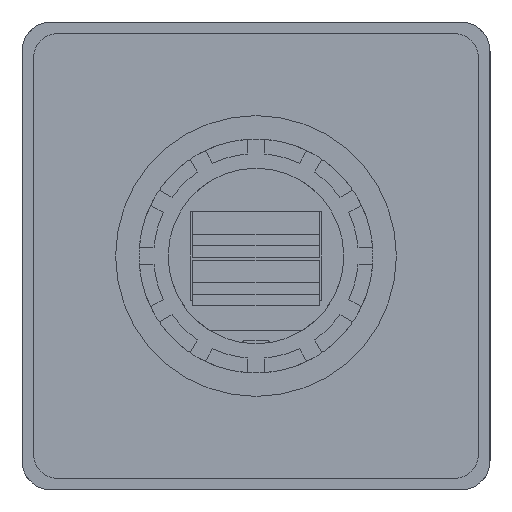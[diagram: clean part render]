
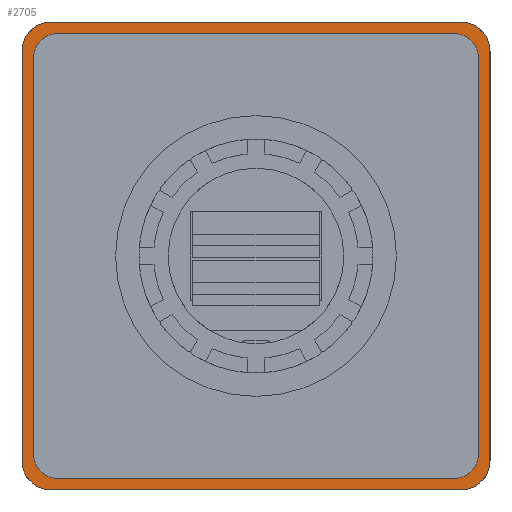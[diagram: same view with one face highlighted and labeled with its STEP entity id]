
A CAD part, front view. The second image highlights one B-rep face of the part: STEP entity #2705.
In plain terms, the highlighted planar face has unit normal (0, -1, 0).
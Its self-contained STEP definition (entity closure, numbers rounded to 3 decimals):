
#2327 = VERTEX_POINT ( 'NONE', #32132 ) ;
#2340 = EDGE_CURVE ( 'NONE', #2350, #2327, #32121, .T. ) ;
#2346 = EDGE_CURVE ( 'NONE', #2636, #2350, #32181, .T. ) ;
#2350 = VERTEX_POINT ( 'NONE', #32175 ) ;
#2360 = VERTEX_POINT ( 'NONE', #32153 ) ;
#2483 = VERTEX_POINT ( 'NONE', #32451 ) ;
#2485 = VERTEX_POINT ( 'NONE', #32450 ) ;
#2500 = EDGE_CURVE ( 'NONE', #2556, #2540, #32504, .T. ) ;
#2513 = EDGE_CURVE ( 'NONE', #2485, #2483, #32497, .T. ) ;
#2540 = VERTEX_POINT ( 'NONE', #32480 ) ;
#2546 = EDGE_CURVE ( 'NONE', #2327, #2556, #32544, .T. ) ;
#2556 = VERTEX_POINT ( 'NONE', #32539 ) ;
#2567 = EDGE_CURVE ( 'NONE', #2540, #2360, #32538, .T. ) ;
#2582 = EDGE_CURVE ( 'NONE', #2360, #2485, #32524, .T. ) ;
#2636 = VERTEX_POINT ( 'NONE', #32570 ) ;
#2638 = EDGE_CURVE ( 'NONE', #2483, #2636, #32569, .T. ) ;
#2652 = EDGE_LOOP ( 'NONE', ( #2798, #2753, #2806, #2865, #2932, #2907, #2742, #2656 ) ) ;
#2653 = VERTEX_POINT ( 'NONE', #32611 ) ;
#2656 = ORIENTED_EDGE ( 'NONE', *, *, #2688, .T. ) ;
#2680 = EDGE_LOOP ( 'NONE', ( #2707, #2903, #2884, #2936, #2914, #2925, #2917, #2929 ) ) ;
#2688 = EDGE_CURVE ( 'NONE', #2653, #2752, #32589, .T. ) ;
#2705 = ADVANCED_FACE ( 'NONE', ( #32658, #32657 ), #32656, .F. ) ;
#2707 = ORIENTED_EDGE ( 'NONE', *, *, #2513, .F. ) ;
#2725 = VERTEX_POINT ( 'NONE', #32639 ) ;
#2740 = EDGE_CURVE ( 'NONE', #2905, #2725, #32632, .T. ) ;
#2742 = ORIENTED_EDGE ( 'NONE', *, *, #2761, .F. ) ;
#2743 = VERTEX_POINT ( 'NONE', #32706 ) ;
#2752 = VERTEX_POINT ( 'NONE', #32694 ) ;
#2753 = ORIENTED_EDGE ( 'NONE', *, *, #2755, .F. ) ;
#2755 = EDGE_CURVE ( 'NONE', #2743, #2779, #32691, .T. ) ;
#2761 = EDGE_CURVE ( 'NONE', #2653, #2725, #32685, .T. ) ;
#2774 = VERTEX_POINT ( 'NONE', #32671 ) ;
#2779 = VERTEX_POINT ( 'NONE', #32669 ) ;
#2787 = EDGE_CURVE ( 'NONE', #2779, #2752, #32739, .T. ) ;
#2798 = ORIENTED_EDGE ( 'NONE', *, *, #2787, .F. ) ;
#2800 = VERTEX_POINT ( 'NONE', #32718 ) ;
#2806 = ORIENTED_EDGE ( 'NONE', *, *, #2807, .T. ) ;
#2807 = EDGE_CURVE ( 'NONE', #2743, #2800, #32786, .T. ) ;
#2865 = ORIENTED_EDGE ( 'NONE', *, *, #2881, .F. ) ;
#2881 = EDGE_CURVE ( 'NONE', #2774, #2800, #32878, .T. ) ;
#2884 = ORIENTED_EDGE ( 'NONE', *, *, #2567, .F. ) ;
#2903 = ORIENTED_EDGE ( 'NONE', *, *, #2582, .F. ) ;
#2905 = VERTEX_POINT ( 'NONE', #33094 ) ;
#2907 = ORIENTED_EDGE ( 'NONE', *, *, #2740, .T. ) ;
#2914 = ORIENTED_EDGE ( 'NONE', *, *, #2546, .F. ) ;
#2917 = ORIENTED_EDGE ( 'NONE', *, *, #2346, .F. ) ;
#2925 = ORIENTED_EDGE ( 'NONE', *, *, #2340, .F. ) ;
#2929 = ORIENTED_EDGE ( 'NONE', *, *, #2638, .F. ) ;
#2932 = ORIENTED_EDGE ( 'NONE', *, *, #2938, .F. ) ;
#2936 = ORIENTED_EDGE ( 'NONE', *, *, #2500, .F. ) ;
#2938 = EDGE_CURVE ( 'NONE', #2905, #2774, #33076, .T. ) ;
#8493 = DIRECTION ( 'NONE',  ( 0., 1., 0. ) ) ;
#8514 = DIRECTION ( 'NONE',  ( 0., 0., 1. ) ) ;
#32113 = DIRECTION ( 'NONE',  ( 0., 0., 1. ) ) ;
#32115 = VECTOR ( 'NONE', #32113, 1000. ) ;
#32116 = CARTESIAN_POINT ( 'NONE',  ( 38., 0., 40. ) ) ;
#32121 = LINE ( 'NONE', #32116, #32115 ) ;
#32132 = CARTESIAN_POINT ( 'NONE',  ( 38., 0., 34. ) ) ;
#32153 = CARTESIAN_POINT ( 'NONE',  ( -38., 0., 34. ) ) ;
#32175 = CARTESIAN_POINT ( 'NONE',  ( 38., 0., -34. ) ) ;
#32176 = DIRECTION ( 'NONE',  ( 0., 0., 1. ) ) ;
#32177 = DIRECTION ( 'NONE',  ( 0., -1., 0. ) ) ;
#32178 = CARTESIAN_POINT ( 'NONE',  ( 34., 0., -34. ) ) ;
#32179 = AXIS2_PLACEMENT_3D ( 'NONE', #32178, #32177, #32176 ) ;
#32181 = CIRCLE ( 'NONE', #32179, 4. ) ;
#32450 = CARTESIAN_POINT ( 'NONE',  ( -38., 0., -34. ) ) ;
#32451 = CARTESIAN_POINT ( 'NONE',  ( -34., 0., -38. ) ) ;
#32480 = CARTESIAN_POINT ( 'NONE',  ( -34., 0., 38. ) ) ;
#32492 = DIRECTION ( 'NONE',  ( 0., 0., 1. ) ) ;
#32493 = DIRECTION ( 'NONE',  ( 0., -1., 0. ) ) ;
#32494 = CARTESIAN_POINT ( 'NONE',  ( -34., 0., -34. ) ) ;
#32495 = AXIS2_PLACEMENT_3D ( 'NONE', #32494, #32493, #32492 ) ;
#32497 = CIRCLE ( 'NONE', #32495, 4. ) ;
#32500 = DIRECTION ( 'NONE',  ( -1., 0., 0. ) ) ;
#32501 = VECTOR ( 'NONE', #32500, 1000. ) ;
#32502 = CARTESIAN_POINT ( 'NONE',  ( -40., 0., 38. ) ) ;
#32504 = LINE ( 'NONE', #32502, #32501 ) ;
#32520 = DIRECTION ( 'NONE',  ( 0., 0., -1. ) ) ;
#32521 = VECTOR ( 'NONE', #32520, 1000. ) ;
#32523 = CARTESIAN_POINT ( 'NONE',  ( -38., 0., 40. ) ) ;
#32524 = LINE ( 'NONE', #32523, #32521 ) ;
#32533 = DIRECTION ( 'NONE',  ( 0., 0., 1. ) ) ;
#32534 = DIRECTION ( 'NONE',  ( 0., -1., 0. ) ) ;
#32535 = CARTESIAN_POINT ( 'NONE',  ( -34., 0., 34. ) ) ;
#32537 = AXIS2_PLACEMENT_3D ( 'NONE', #32535, #32534, #32533 ) ;
#32538 = CIRCLE ( 'NONE', #32537, 4. ) ;
#32539 = CARTESIAN_POINT ( 'NONE',  ( 34., 0., 38. ) ) ;
#32540 = DIRECTION ( 'NONE',  ( 0., 0., 1. ) ) ;
#32541 = DIRECTION ( 'NONE',  ( 0., -1., 0. ) ) ;
#32542 = CARTESIAN_POINT ( 'NONE',  ( 34., 0., 34. ) ) ;
#32543 = AXIS2_PLACEMENT_3D ( 'NONE', #32542, #32541, #32540 ) ;
#32544 = CIRCLE ( 'NONE', #32543, 4. ) ;
#32565 = DIRECTION ( 'NONE',  ( 1., 0., 0. ) ) ;
#32566 = VECTOR ( 'NONE', #32565, 1000. ) ;
#32567 = CARTESIAN_POINT ( 'NONE',  ( -40., 0., -38. ) ) ;
#32569 = LINE ( 'NONE', #32567, #32566 ) ;
#32570 = CARTESIAN_POINT ( 'NONE',  ( 34., 0., -38. ) ) ;
#32589 = CIRCLE ( 'NONE', #32663, 5. ) ;
#32611 = CARTESIAN_POINT ( 'NONE',  ( -40., 0., -35. ) ) ;
#32629 = DIRECTION ( 'NONE',  ( 0., -1., 0. ) ) ;
#32630 = CARTESIAN_POINT ( 'NONE',  ( -35., 0., 35. ) ) ;
#32631 = AXIS2_PLACEMENT_3D ( 'NONE', #32630, #32629, #32707 ) ;
#32632 = CIRCLE ( 'NONE', #32631, 5. ) ;
#32639 = CARTESIAN_POINT ( 'NONE',  ( -40., 0., 35. ) ) ;
#32652 = DIRECTION ( 'NONE',  ( 0., 0., 1. ) ) ;
#32653 = DIRECTION ( 'NONE',  ( 0., 1., 0. ) ) ;
#32654 = CARTESIAN_POINT ( 'NONE',  ( -40., 0., 40. ) ) ;
#32655 = AXIS2_PLACEMENT_3D ( 'NONE', #32654, #32653, #32652 ) ;
#32656 = PLANE ( 'NONE',  #32655 ) ;
#32657 = FACE_BOUND ( 'NONE', #2680, .T. ) ;
#32658 = FACE_OUTER_BOUND ( 'NONE', #2652, .T. ) ;
#32660 = DIRECTION ( 'NONE',  ( 0., 0., 1. ) ) ;
#32661 = DIRECTION ( 'NONE',  ( 0., -1., 0. ) ) ;
#32662 = CARTESIAN_POINT ( 'NONE',  ( -35., 0., -35. ) ) ;
#32663 = AXIS2_PLACEMENT_3D ( 'NONE', #32662, #32661, #32660 ) ;
#32669 = CARTESIAN_POINT ( 'NONE',  ( 35., 0., -40. ) ) ;
#32671 = CARTESIAN_POINT ( 'NONE',  ( 35., 0., 40. ) ) ;
#32682 = DIRECTION ( 'NONE',  ( 0., 0., 1. ) ) ;
#32683 = VECTOR ( 'NONE', #32682, 1000. ) ;
#32684 = CARTESIAN_POINT ( 'NONE',  ( -40., 0., -40. ) ) ;
#32685 = LINE ( 'NONE', #32684, #32683 ) ;
#32686 = DIRECTION ( 'NONE',  ( 0., 0., 1. ) ) ;
#32688 = DIRECTION ( 'NONE',  ( 0., 1., 0. ) ) ;
#32689 = CARTESIAN_POINT ( 'NONE',  ( 35., 0., -35. ) ) ;
#32690 = AXIS2_PLACEMENT_3D ( 'NONE', #32689, #32688, #32686 ) ;
#32691 = CIRCLE ( 'NONE', #32690, 5. ) ;
#32694 = CARTESIAN_POINT ( 'NONE',  ( -35., 0., -40. ) ) ;
#32706 = CARTESIAN_POINT ( 'NONE',  ( 40., 0., -35. ) ) ;
#32707 = DIRECTION ( 'NONE',  ( 0., 0., 1. ) ) ;
#32718 = CARTESIAN_POINT ( 'NONE',  ( 40., 0., 35. ) ) ;
#32735 = DIRECTION ( 'NONE',  ( -1., 0., 0. ) ) ;
#32737 = VECTOR ( 'NONE', #32735, 1000. ) ;
#32738 = CARTESIAN_POINT ( 'NONE',  ( -40., 0., -40. ) ) ;
#32739 = LINE ( 'NONE', #32738, #32737 ) ;
#32783 = DIRECTION ( 'NONE',  ( 0., 0., 1. ) ) ;
#32784 = VECTOR ( 'NONE', #32783, 1000. ) ;
#32785 = CARTESIAN_POINT ( 'NONE',  ( 40., 0., -40. ) ) ;
#32786 = LINE ( 'NONE', #32785, #32784 ) ;
#32876 = CARTESIAN_POINT ( 'NONE',  ( 35., 0., 35. ) ) ;
#32877 = AXIS2_PLACEMENT_3D ( 'NONE', #32876, #8493, #8514 ) ;
#32878 = CIRCLE ( 'NONE', #32877, 5. ) ;
#33072 = DIRECTION ( 'NONE',  ( 1., 0., 0. ) ) ;
#33073 = VECTOR ( 'NONE', #33072, 1000. ) ;
#33075 = CARTESIAN_POINT ( 'NONE',  ( -40., 0., 40. ) ) ;
#33076 = LINE ( 'NONE', #33075, #33073 ) ;
#33094 = CARTESIAN_POINT ( 'NONE',  ( -35., 0., 40. ) ) ;
